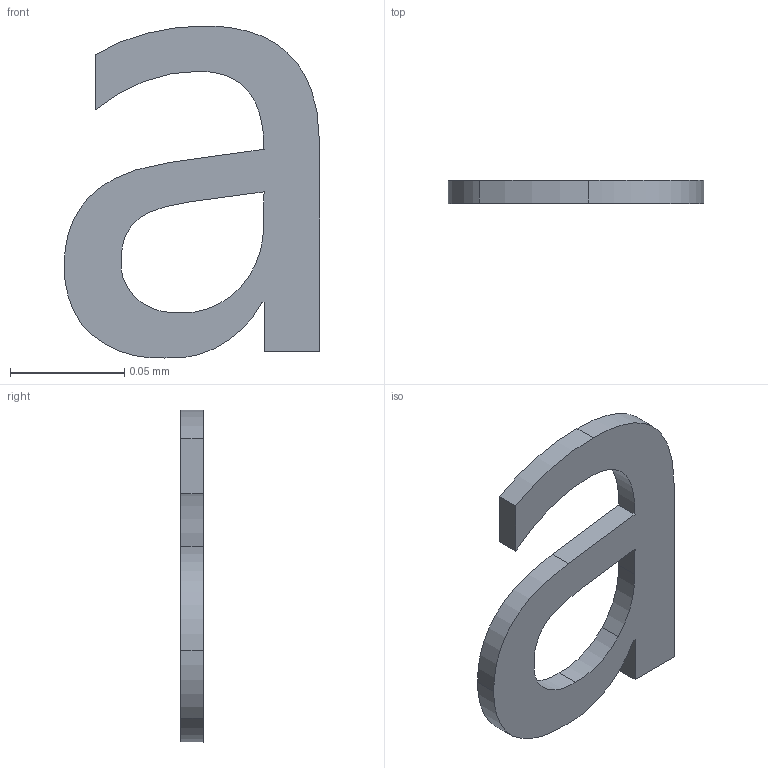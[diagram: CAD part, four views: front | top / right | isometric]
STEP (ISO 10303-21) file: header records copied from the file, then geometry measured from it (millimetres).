
FILE_DESCRIPTION(/* description */ ('STEP AP242 Edition 2','CAx-IF Rec.Pracs.---Representation and Presentation of Product Manufacturing Information (PMI)---4.0---2014-10-13','CAx-IF Rec.Pracs.---3D Tessellated Geometry---0.4---2014-09-14','2;1','CAx-IF Rec.Pracs.---User Defined Attributes---1.5---2016-08-15'),/* implementation_level */ '2;1');
FILE_NAME(/* name */ 'Assembly 1 - SW-TH_3P-L5.8_WSGT-3P-CC~SW-TH_3P-L5.8_WSGT-3P-CC~nxQB',/* time_stamp */ '2026-04-02T09:55:27Z',/* author */ (''),/* organization */ (''),/* preprocessor_version */ 'ST-DEVELOPER v20',/* originating_system */ 'ONSHAPE BY PTC INC, 1.212',/* authorisation */ ' ');
FILE_SCHEMA (('AP242_MANAGED_MODEL_BASED_3D_ENGINEERING_MIM_LF { 1 0 10303 442 3 1 4 }'));
Length unit declared in the file: metre
Products named in the file (1): SW-TH_3P-L5.8_WSGT-3P-CC~SW-TH_3P-L5.8_WSGT-3P-CC~nxQB
Bounding box: 0.11 x 0.01 x 0.15 mm (x, y, z)
Volume: 0 mm3; surface area: 0 mm2
Topology: 1 solids, 1 shells, 24 faces, 66 edges, 44 vertices
Faces by surface type: plane 10, cylinder 10, bspline 4
Entity records: 1000 total; most frequent: CARTESIAN_POINT 220, ORIENTED_EDGE 132, DIRECTION 109, EDGE_CURVE 66, VERTEX_POINT 44, AXIS2_PLACEMENT_3D 41, LINE 27, VECTOR 27
